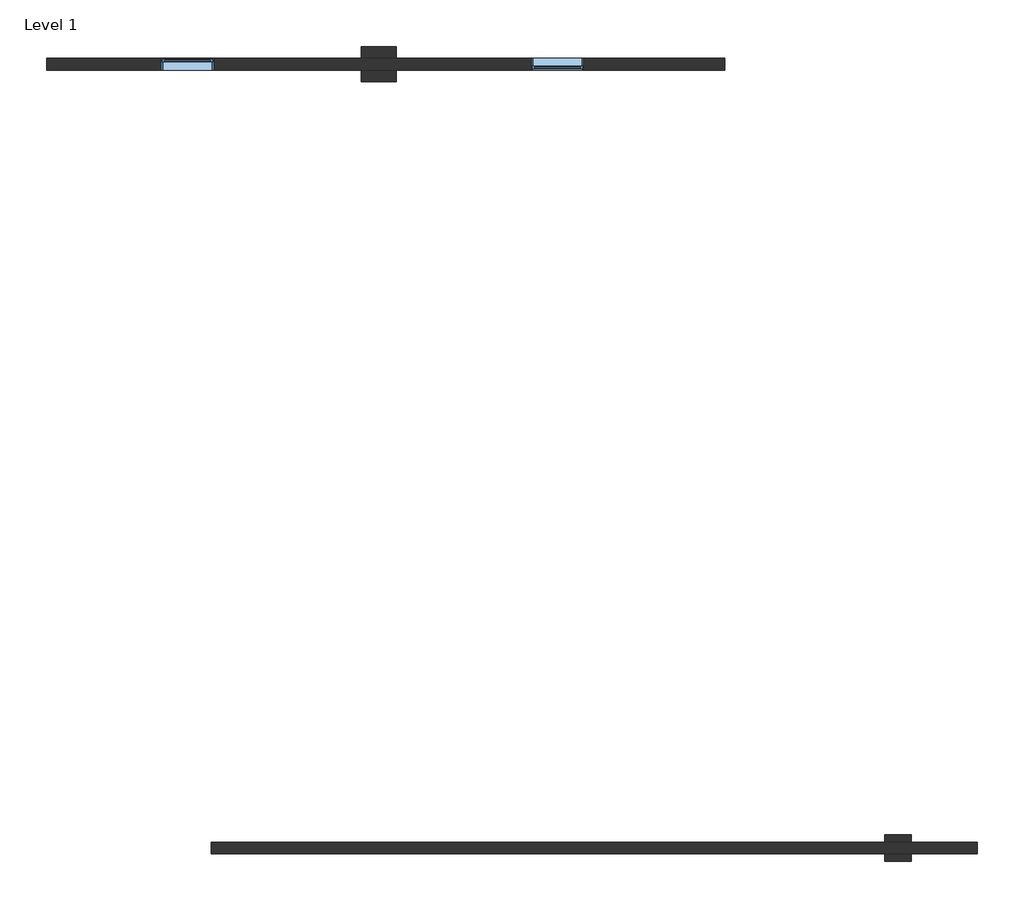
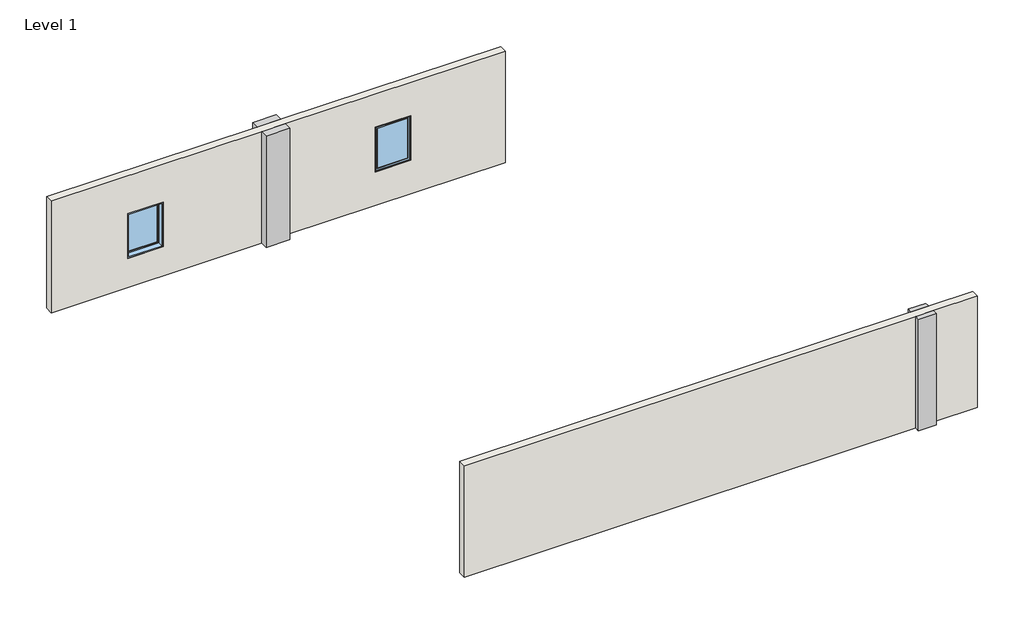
# One storey: 2 columns, 2 walls, 2 windows.
"""IFC4 building model written with IfcOpenShell, lengths in millimetres."""

from ifc_helpers import new_model, si_unit, origin, origin_with_axes, place, context, project, spatial, polyline, outline, extrude, faceted_brep, transform, mapped, element, save
from components import window_e2841890

model = new_model("IFC4")

# Units and contexts
model_context = context("Model", 3, world=origin())
ifc_project = project(units=[si_unit("LENGTHUNIT", "METRE", prefix="MILLI")], contexts=[model_context])

# Site, building, storey
site = spatial("IfcSite", under=ifc_project)
building = spatial("IfcBuilding", under=site)
storey = spatial("IfcBuildingStorey", under=building, Name="Level 1", Elevation=0.0)

# Columns
placement = place(None, origin())
element("IfcColumn", 1, ObjectType="Rectangular Column : 18\" x 18\"", at=placement, inside=storey, context=model_context, shape_type="SweptSolid", body=[
    extrude(outline(polyline([(7808.8677308, -11340.6444087), (8266.0677308, -11340.6444087), (8266.0677308, -11467.6444087), (7808.8677308, -11467.6444087), (7808.8677308, -11340.6444087)])), origin_with_axes(), (0.0, 0.0, 1.0), 3048.0),
    extrude(outline(polyline([(8266.0677308, -11797.8444087), (7808.8677308, -11797.8444087), (7808.8677308, -11670.8444087), (8266.0677308, -11670.8444087), (8266.0677308, -11797.8444087)])), origin_with_axes(), (0.0, 0.0, 1.0), 3048.0),
])
element("IfcColumn", 2, ObjectType="Rectangular Column : 24\" x 24\"", at=placement, inside=storey, context=model_context, shape_type="SweptSolid", body=[
    extrude(outline(polyline([(-1255.8160686, 2303.2757097), (-646.2160686, 2303.2757097), (-646.2160686, 2100.0757097), (-1255.8160686, 2100.0757097), (-1255.8160686, 2303.2757097)])), origin_with_axes(), (0.0, 0.0, 1.0), 3048.0),
    extrude(outline(polyline([(-646.2160686, 1693.6757097), (-1255.8160686, 1693.6757097), (-1255.8160686, 1896.8757097), (-646.2160686, 1896.8757097), (-646.2160686, 1693.6757097)])), origin_with_axes(), (0.0, 0.0, 1.0), 3048.0),
])

# Walls
element("IfcWall", 3, ObjectType="Generic - 8\"", at=placement, inside=storey, context=model_context, shape_type="Brep", body=[
    faceted_brep([(-6695.99312, 1896.8757097, 0.0), (-1255.8160686, 1896.8757097, 0.0), (-646.2160686, 1896.8757097, 0.0), (5038.80688, 1896.8757097, 0.0), (5038.80688, 1896.8757097, 3048.0), (-646.2160686, 1896.8757097, 3048.0), (-1255.8160686, 1896.8757097, 3048.0), (-6695.99312, 1896.8757097, 3048.0), (1686.00688, 1896.8757097, 2133.6), (2600.40688, 1896.8757097, 2133.6), (2600.40688, 1896.8757097, 914.4), (1686.00688, 1896.8757097, 914.4), (-3800.39312, 1896.8757097, 2013.6978287), (-3800.39312, 1896.8757097, 794.4978287), (-4714.79312, 1896.8757097, 794.4978287), (-4714.79312, 1896.8757097, 2013.6978287), (-6695.99312, 2100.0757097, 0.0), (-6695.99312, 2100.0757097, 3048.0), (-1255.8160686, 2100.0757097, 3048.0), (-646.2160686, 2100.0757097, 3048.0), (5038.80688, 2100.0757097, 3048.0), (5038.80688, 2100.0757097, 0.0), (-646.2160686, 2100.0757097, 0.0), (-1255.8160686, 2100.0757097, 0.0), (1686.00688, 2100.0757097, 2133.6), (1686.00688, 2100.0757097, 914.4), (2600.40688, 2100.0757097, 914.4), (2600.40688, 2100.0757097, 2133.6), (-3800.39312, 2100.0757097, 2013.6978287), (-4714.79312, 2100.0757097, 2013.6978287), (-4714.79312, 2100.0757097, 794.4978287), (-3800.39312, 2100.0757097, 794.4978287)], [[[0, 1, 2, 3, 4, 5, 6, 7], [8, 9, 10, 11], [12, 13, 14, 15]], [[16, 17, 18, 19, 20, 21, 22, 23], [24, 25, 26, 27], [28, 29, 30, 31]], [[3, 2, 1, 0, 16, 23, 22, 21]], [[4, 3, 21, 20]], [[7, 6, 5, 4, 20, 19, 18, 17]], [[0, 7, 17, 16]], [[25, 24, 8, 11]], [[26, 25, 11, 10]], [[27, 26, 10, 9]], [[24, 27, 9, 8]], [[13, 12, 28, 31]], [[14, 13, 31, 30]], [[15, 14, 30, 29]], [[12, 15, 29, 28]]]),
])
element("IfcWall", 4, ObjectType="Generic - 8\"", at=placement, inside=storey, context=model_context, shape_type="Brep", body=[
    faceted_brep([(-3849.7322692, -11670.8444087, 0.0), (7808.8677308, -11670.8444087, 0.0), (8266.0677308, -11670.8444087, 0.0), (9409.0677308, -11670.8444087, 0.0), (9409.0677308, -11670.8444087, 3048.0), (8266.0677308, -11670.8444087, 3048.0), (7808.8677308, -11670.8444087, 3048.0), (-3849.7322692, -11670.8444087, 3048.0), (-3849.7322692, -11467.6444087, 0.0), (-3849.7322692, -11467.6444087, 3048.0), (7808.8677308, -11467.6444087, 3048.0), (8266.0677308, -11467.6444087, 3048.0), (9409.0677308, -11467.6444087, 3048.0), (9409.0677308, -11467.6444087, 0.0), (8266.0677308, -11467.6444087, 0.0), (7808.8677308, -11467.6444087, 0.0)], [[[0, 1, 2, 3, 4, 5, 6, 7]], [[8, 9, 10, 11, 12, 13, 14, 15]], [[3, 2, 1, 0, 8, 15, 14, 13]], [[4, 3, 13, 12]], [[7, 6, 5, 4, 12, 11, 10, 9]], [[0, 7, 9, 8]]]),
])

# Windows
window_shape = window_e2841890(model_context)
element("IfcWindow", 5, ObjectType="Fixed : 36\" x 48\"", at=placement, inside=storey, context=model_context, shape_type="MappedRepresentation", body=[
    mapped(window_shape, transform((2105.10688, 1998.4757097, 0.0), x_axis=(-1.0, 0.0, 0.0), y_axis=(0.0, -1.0, 0.0), z_axis=(0.0, 0.0, 1.0))),
])
element("IfcWindow", 6, ObjectType="Fixed : 36\" x 48\"", at=placement, inside=storey, context=model_context, shape_type="MappedRepresentation", body=[
    mapped(window_shape, transform((-4219.49312, 1998.4757097, -119.9021713), x_axis=(1.0, 0.0, 0.0), y_axis=(0.0, 1.0, 0.0), z_axis=(0.0, 0.0, 1.0))),
])

save(model, "model.ifc")
